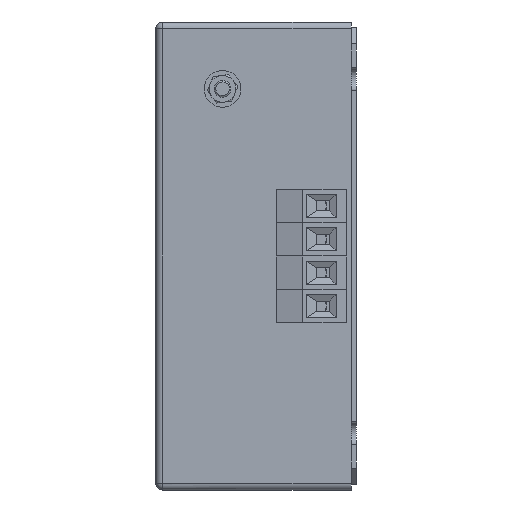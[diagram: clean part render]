
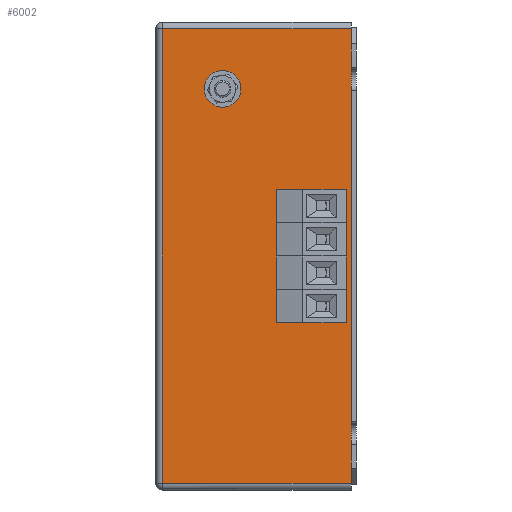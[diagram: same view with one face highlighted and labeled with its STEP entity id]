
A CAD part, left-side view. The second image highlights one B-rep face of the part: STEP entity #6002.
In plain terms, the highlighted planar face has unit normal (-1, 0, 0).
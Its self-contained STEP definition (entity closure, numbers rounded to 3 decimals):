
#36 = VERTEX_POINT ( 'NONE', #886 ) ;
#60 = EDGE_CURVE ( 'NONE', #3911, #853, #4938, .T. ) ;
#132 = DIRECTION ( 'NONE',  ( 0., -1., 0. ) ) ;
#221 = DIRECTION ( 'NONE',  ( 0., 0., -1. ) ) ;
#241 = CARTESIAN_POINT ( 'NONE',  ( 15., 1.5, 0.5 ) ) ;
#439 = ORIENTED_EDGE ( 'NONE', *, *, #1615, .T. ) ;
#515 = CIRCLE ( 'NONE', #1400, 4.1 ) ;
#527 = VERTEX_POINT ( 'NONE', #4570 ) ;
#582 = CARTESIAN_POINT ( 'NONE',  ( 15., 60., -1.5 ) ) ;
#707 = AXIS2_PLACEMENT_3D ( 'NONE', #4163, #5448, #6782 ) ;
#742 = VERTEX_POINT ( 'NONE', #3545 ) ;
#751 = VERTEX_POINT ( 'NONE', #241 ) ;
#853 = VERTEX_POINT ( 'NONE', #7645 ) ;
#886 = CARTESIAN_POINT ( 'NONE',  ( 15., 13., 57.6 ) ) ;
#892 = ORIENTED_EDGE ( 'NONE', *, *, #2881, .T. ) ;
#916 = CARTESIAN_POINT ( 'NONE',  ( 15., 40., 121. ) ) ;
#941 = AXIS2_PLACEMENT_3D ( 'NONE', #6866, #1674, #1596 ) ;
#1025 = AXIS2_PLACEMENT_3D ( 'NONE', #582, #3871, #8458 ) ;
#1038 = CARTESIAN_POINT ( 'NONE',  ( 15., 13., 53.5 ) ) ;
#1054 = ORIENTED_EDGE ( 'NONE', *, *, #1984, .T. ) ;
#1237 = CIRCLE ( 'NONE', #3870, 4.1 ) ;
#1353 = EDGE_LOOP ( 'NONE', ( #1581, #1701 ) ) ;
#1379 = ORIENTED_EDGE ( 'NONE', *, *, #60, .T. ) ;
#1400 = AXIS2_PLACEMENT_3D ( 'NONE', #1444, #5385, #6660 ) ;
#1444 = CARTESIAN_POINT ( 'NONE',  ( 15., 13., 83.5 ) ) ;
#1476 = EDGE_LOOP ( 'NONE', ( #6931, #2479 ) ) ;
#1555 = CARTESIAN_POINT ( 'NONE',  ( 15., 58., 0.5 ) ) ;
#1581 = ORIENTED_EDGE ( 'NONE', *, *, #8060, .T. ) ;
#1596 = DIRECTION ( 'NONE',  ( 0., 0., -1. ) ) ;
#1615 = EDGE_CURVE ( 'NONE', #4523, #6403, #1237, .T. ) ;
#1666 = ORIENTED_EDGE ( 'NONE', *, *, #4216, .T. ) ;
#1674 = DIRECTION ( 'NONE',  ( 1., 0., 0. ) ) ;
#1701 = ORIENTED_EDGE ( 'NONE', *, *, #3049, .T. ) ;
#1739 = CIRCLE ( 'NONE', #707, 2.5 ) ;
#1818 = DIRECTION ( 'NONE',  ( 1., 0., 0. ) ) ;
#1882 = CIRCLE ( 'NONE', #5600, 4.1 ) ;
#1959 = CARTESIAN_POINT ( 'NONE',  ( 15., 58., -1.5 ) ) ;
#1984 = EDGE_CURVE ( 'NONE', #7652, #527, #515, .T. ) ;
#2031 = AXIS2_PLACEMENT_3D ( 'NONE', #4300, #3564, #3533 ) ;
#2032 = LINE ( 'NONE', #7269, #2250 ) ;
#2076 = VECTOR ( 'NONE', #8249, 1000. ) ;
#2250 = VECTOR ( 'NONE', #132, 1000. ) ;
#2278 = DIRECTION ( 'NONE',  ( 0., 0., -1. ) ) ;
#2362 = CIRCLE ( 'NONE', #6022, 4.1 ) ;
#2416 = EDGE_LOOP ( 'NONE', ( #3118, #1054 ) ) ;
#2469 = EDGE_LOOP ( 'NONE', ( #6221, #892, #5681, #1379 ) ) ;
#2477 = DIRECTION ( 'NONE',  ( 1., 0., 0. ) ) ;
#2479 = ORIENTED_EDGE ( 'NONE', *, *, #5558, .T. ) ;
#2484 = VERTEX_POINT ( 'NONE', #916 ) ;
#2712 = EDGE_CURVE ( 'NONE', #853, #8455, #5215, .T. ) ;
#2735 = CARTESIAN_POINT ( 'NONE',  ( 15., 13., 69.4 ) ) ;
#2881 = EDGE_CURVE ( 'NONE', #8455, #751, #2032, .T. ) ;
#2924 = DIRECTION ( 'NONE',  ( 0., 0., -1. ) ) ;
#2950 = CARTESIAN_POINT ( 'NONE',  ( 15., 13., 73.5 ) ) ;
#3049 = EDGE_CURVE ( 'NONE', #2484, #3409, #1739, .T. ) ;
#3061 = CARTESIAN_POINT ( 'NONE',  ( 15., 40., 116. ) ) ;
#3094 = FACE_BOUND ( 'NONE', #3710, .T. ) ;
#3118 = ORIENTED_EDGE ( 'NONE', *, *, #3260, .T. ) ;
#3260 = EDGE_CURVE ( 'NONE', #527, #7652, #8111, .T. ) ;
#3409 = VERTEX_POINT ( 'NONE', #3061 ) ;
#3533 = DIRECTION ( 'NONE',  ( 0., 0., -1. ) ) ;
#3542 = EDGE_CURVE ( 'NONE', #7741, #36, #7584, .T. ) ;
#3545 = CARTESIAN_POINT ( 'NONE',  ( 15., 13., 59.4 ) ) ;
#3564 = DIRECTION ( 'NONE',  ( 1., 0., 0. ) ) ;
#3581 = CARTESIAN_POINT ( 'NONE',  ( 15., 13., 83.5 ) ) ;
#3656 = CARTESIAN_POINT ( 'NONE',  ( 15., 13., 67.6 ) ) ;
#3710 = EDGE_LOOP ( 'NONE', ( #8429, #1666 ) ) ;
#3870 = AXIS2_PLACEMENT_3D ( 'NONE', #2950, #7498, #2924 ) ;
#3871 = DIRECTION ( 'NONE',  ( 1., 0., 0. ) ) ;
#3911 = VERTEX_POINT ( 'NONE', #6437 ) ;
#4114 = AXIS2_PLACEMENT_3D ( 'NONE', #5735, #2477, #4465 ) ;
#4121 = FACE_BOUND ( 'NONE', #1476, .T. ) ;
#4163 = CARTESIAN_POINT ( 'NONE',  ( 15., 40., 118.5 ) ) ;
#4216 = EDGE_CURVE ( 'NONE', #36, #7741, #1882, .T. ) ;
#4300 = CARTESIAN_POINT ( 'NONE',  ( 15., 13., 63.5 ) ) ;
#4305 = DIRECTION ( 'NONE',  ( 0., 0., -1. ) ) ;
#4337 = VERTEX_POINT ( 'NONE', #3656 ) ;
#4465 = DIRECTION ( 'NONE',  ( 0., 0., -1. ) ) ;
#4523 = VERTEX_POINT ( 'NONE', #2735 ) ;
#4542 = LINE ( 'NONE', #7735, #2076 ) ;
#4570 = CARTESIAN_POINT ( 'NONE',  ( 15., 13., 79.4 ) ) ;
#4588 = EDGE_CURVE ( 'NONE', #6403, #4523, #5768, .T. ) ;
#4627 = FACE_BOUND ( 'NONE', #1353, .T. ) ;
#4752 = EDGE_CURVE ( 'NONE', #751, #3911, #4542, .T. ) ;
#4938 = LINE ( 'NONE', #5421, #8425 ) ;
#5053 = AXIS2_PLACEMENT_3D ( 'NONE', #3581, #8095, #221 ) ;
#5131 = DIRECTION ( 'NONE',  ( 0., 0., -1. ) ) ;
#5215 = LINE ( 'NONE', #1959, #6568 ) ;
#5385 = DIRECTION ( 'NONE',  ( 1., 0., 0. ) ) ;
#5421 = CARTESIAN_POINT ( 'NONE',  ( 15., 60., 136.5 ) ) ;
#5448 = DIRECTION ( 'NONE',  ( 1., 0., 0. ) ) ;
#5477 = DIRECTION ( 'NONE',  ( 1., 0., 0. ) ) ;
#5558 = EDGE_CURVE ( 'NONE', #4337, #742, #6381, .T. ) ;
#5600 = AXIS2_PLACEMENT_3D ( 'NONE', #1038, #6283, #4305 ) ;
#5638 = FACE_OUTER_BOUND ( 'NONE', #2469, .T. ) ;
#5681 = ORIENTED_EDGE ( 'NONE', *, *, #4752, .T. ) ;
#5735 = CARTESIAN_POINT ( 'NONE',  ( 15., 40., 118.5 ) ) ;
#5737 = CARTESIAN_POINT ( 'NONE',  ( 15., 13., 63.5 ) ) ;
#5768 = CIRCLE ( 'NONE', #6654, 4.1 ) ;
#5987 = CARTESIAN_POINT ( 'NONE',  ( 15., 13., 87.6 ) ) ;
#6002 = ADVANCED_FACE ( 'NONE', ( #6790, #3094, #8135, #4627, #4121, #5638 ), #7802, .F. ) ;
#6022 = AXIS2_PLACEMENT_3D ( 'NONE', #5737, #1818, #5131 ) ;
#6191 = ORIENTED_EDGE ( 'NONE', *, *, #4588, .T. ) ;
#6221 = ORIENTED_EDGE ( 'NONE', *, *, #2712, .T. ) ;
#6283 = DIRECTION ( 'NONE',  ( 1., 0., 0. ) ) ;
#6381 = CIRCLE ( 'NONE', #2031, 4.1 ) ;
#6403 = VERTEX_POINT ( 'NONE', #6966 ) ;
#6437 = CARTESIAN_POINT ( 'NONE',  ( 15., 1.5, 136.5 ) ) ;
#6449 = CIRCLE ( 'NONE', #4114, 2.5 ) ;
#6554 = DIRECTION ( 'NONE',  ( 0., 0., -1. ) ) ;
#6563 = EDGE_CURVE ( 'NONE', #742, #4337, #2362, .T. ) ;
#6568 = VECTOR ( 'NONE', #6554, 1000. ) ;
#6654 = AXIS2_PLACEMENT_3D ( 'NONE', #6814, #5477, #2278 ) ;
#6660 = DIRECTION ( 'NONE',  ( 0., 0., -1. ) ) ;
#6708 = EDGE_LOOP ( 'NONE', ( #439, #6191 ) ) ;
#6782 = DIRECTION ( 'NONE',  ( 0., 0., -1. ) ) ;
#6790 = FACE_BOUND ( 'NONE', #2416, .T. ) ;
#6814 = CARTESIAN_POINT ( 'NONE',  ( 15., 13., 73.5 ) ) ;
#6866 = CARTESIAN_POINT ( 'NONE',  ( 15., 13., 53.5 ) ) ;
#6931 = ORIENTED_EDGE ( 'NONE', *, *, #6563, .T. ) ;
#6966 = CARTESIAN_POINT ( 'NONE',  ( 15., 13., 77.6 ) ) ;
#7269 = CARTESIAN_POINT ( 'NONE',  ( 15., 60., 0.5 ) ) ;
#7447 = DIRECTION ( 'NONE',  ( 0., 1., 0. ) ) ;
#7498 = DIRECTION ( 'NONE',  ( 1., 0., 0. ) ) ;
#7584 = CIRCLE ( 'NONE', #941, 4.1 ) ;
#7645 = CARTESIAN_POINT ( 'NONE',  ( 15., 58., 136.5 ) ) ;
#7652 = VERTEX_POINT ( 'NONE', #5987 ) ;
#7735 = CARTESIAN_POINT ( 'NONE',  ( 15., 1.5, -1.5 ) ) ;
#7741 = VERTEX_POINT ( 'NONE', #8093 ) ;
#7802 = PLANE ( 'NONE',  #1025 ) ;
#8060 = EDGE_CURVE ( 'NONE', #3409, #2484, #6449, .T. ) ;
#8093 = CARTESIAN_POINT ( 'NONE',  ( 15., 13., 49.4 ) ) ;
#8095 = DIRECTION ( 'NONE',  ( 1., 0., 0. ) ) ;
#8111 = CIRCLE ( 'NONE', #5053, 4.1 ) ;
#8135 = FACE_BOUND ( 'NONE', #6708, .T. ) ;
#8249 = DIRECTION ( 'NONE',  ( 0., 0., 1. ) ) ;
#8425 = VECTOR ( 'NONE', #7447, 1000. ) ;
#8429 = ORIENTED_EDGE ( 'NONE', *, *, #3542, .T. ) ;
#8455 = VERTEX_POINT ( 'NONE', #1555 ) ;
#8458 = DIRECTION ( 'NONE',  ( 0., 0., -1. ) ) ;
